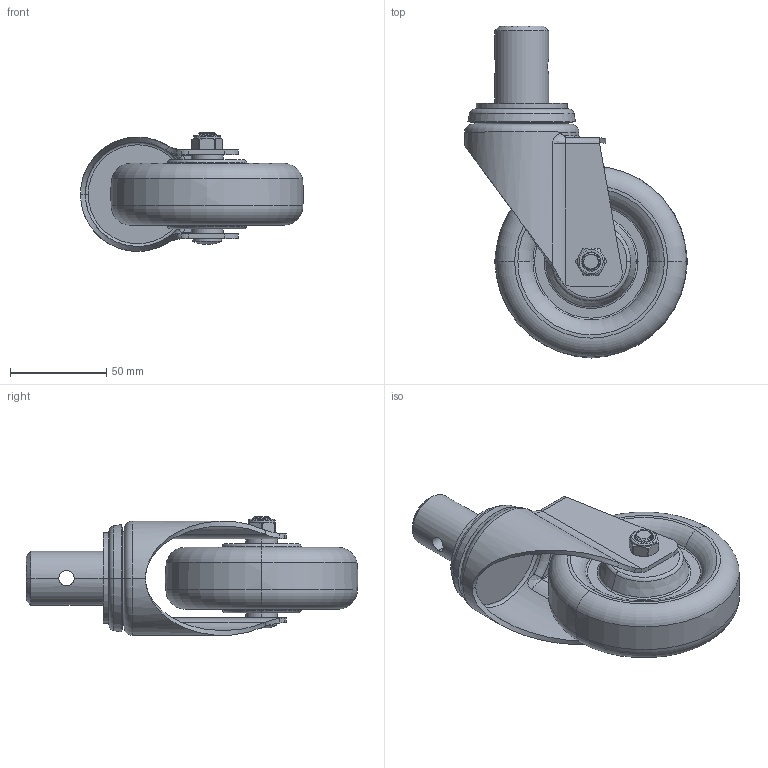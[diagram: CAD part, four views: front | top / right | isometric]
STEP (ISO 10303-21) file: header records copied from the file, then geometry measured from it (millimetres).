
FILE_DESCRIPTION((''),'2;1');
FILE_NAME('50154-504-86_ASM','2020-01-01T',('L'),(''),'PRO/ENGINEER BY PARAMETRIC TECHNOLOGY CORPORATION, 2010280','PRO/ENGINEER BY PARAMETRIC TECHNOLOGY CORPORATION, 2010280','');
FILE_SCHEMA(('CONFIG_CONTROL_DESIGN'));
Length unit declared in the file: millimetre
Products named in the file (5): 50154; 504-986; 570-33; 570-34; 50154-504-86_ASM
Assembly tree (4 placements, depth 2):
  50154-504-86_ASM
    50154
    504-986
    570-33
    570-34
Bounding box: 115.63 x 172.18 x 61.65 mm (x, y, z)
Volume: 294750.4 mm3; surface area: 61793.7 mm2
Topology: 4 solids, 4 shells, 200 faces, 471 edges, 287 vertices
Faces by surface type: cylinder 66, plane 45, torus 32, cone 28, bspline 27, sphere 2
Entity records: 10652 total; most frequent: CARTESIAN_POINT 6135, ORIENTED_EDGE 938, DIRECTION 891, EDGE_CURVE 469, AXIS2_PLACEMENT_3D 373, VERTEX_POINT 287, EDGE_LOOP 218, FACE_OUTER_BOUND 200
